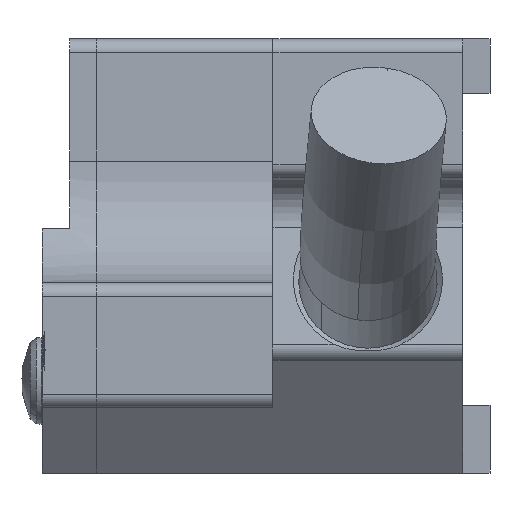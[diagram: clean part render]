
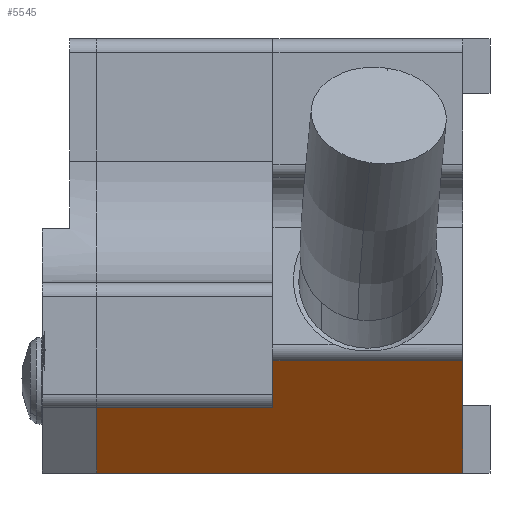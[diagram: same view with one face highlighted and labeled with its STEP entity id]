
A CAD part, left-side view. The second image highlights one B-rep face of the part: STEP entity #5545.
In plain terms, the highlighted planar face has unit normal (-0.342, 0, -0.94).
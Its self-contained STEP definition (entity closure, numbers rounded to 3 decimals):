
#685 = ORIENTED_EDGE ( 'NONE', *, *, #4542, .T. ) ;
#809 = LINE ( 'NONE', #8031, #8059 ) ;
#826 = CARTESIAN_POINT ( 'NONE',  ( -13.171, 7., 1.928 ) ) ;
#895 = VECTOR ( 'NONE', #1918, 1000. ) ;
#1005 = DIRECTION ( 'NONE',  ( 0., 1., 0. ) ) ;
#1209 = DIRECTION ( 'NONE',  ( 0.94, 0., -0.342 ) ) ;
#1268 = LINE ( 'NONE', #4564, #7045 ) ;
#1306 = EDGE_CURVE ( 'NONE', #2952, #4324, #5139, .T. ) ;
#1396 = DIRECTION ( 'NONE',  ( -0.94, 0., 0.342 ) ) ;
#1630 = LINE ( 'NONE', #7440, #3230 ) ;
#1813 = CARTESIAN_POINT ( 'NONE',  ( -13.171, 13.5, 1.928 ) ) ;
#1918 = DIRECTION ( 'NONE',  ( 0., 1., 0. ) ) ;
#2157 = EDGE_CURVE ( 'NONE', #5694, #8547, #809, .T. ) ;
#2202 = CARTESIAN_POINT ( 'NONE',  ( -17.858, 7., 3.634 ) ) ;
#2243 = AXIS2_PLACEMENT_3D ( 'NONE', #8405, #7103, #1209 ) ;
#2473 = EDGE_LOOP ( 'NONE', ( #4356, #2907, #5236, #685, #3915, #3470 ) ) ;
#2907 = ORIENTED_EDGE ( 'NONE', *, *, #1306, .T. ) ;
#2916 = LINE ( 'NONE', #7539, #4327 ) ;
#2952 = VERTEX_POINT ( 'NONE', #3848 ) ;
#2974 = VERTEX_POINT ( 'NONE', #826 ) ;
#3031 = CARTESIAN_POINT ( 'NONE',  ( -6.5, 13.5, -0.5 ) ) ;
#3164 = FACE_OUTER_BOUND ( 'NONE', #2473, .T. ) ;
#3230 = VECTOR ( 'NONE', #1005, 1000. ) ;
#3251 = EDGE_CURVE ( 'NONE', #5694, #2952, #2916, .T. ) ;
#3470 = ORIENTED_EDGE ( 'NONE', *, *, #2157, .F. ) ;
#3848 = CARTESIAN_POINT ( 'NONE',  ( -17.858, 0., 3.634 ) ) ;
#3915 = ORIENTED_EDGE ( 'NONE', *, *, #6006, .T. ) ;
#4324 = VERTEX_POINT ( 'NONE', #2202 ) ;
#4327 = VECTOR ( 'NONE', #6090, 1000. ) ;
#4356 = ORIENTED_EDGE ( 'NONE', *, *, #3251, .T. ) ;
#4542 = EDGE_CURVE ( 'NONE', #2974, #4849, #1630, .T. ) ;
#4564 = CARTESIAN_POINT ( 'NONE',  ( -18.5, 7., 3.868 ) ) ;
#4695 = EDGE_CURVE ( 'NONE', #2974, #4324, #1268, .T. ) ;
#4796 = DIRECTION ( 'NONE',  ( 0.94, 0., -0.342 ) ) ;
#4849 = VERTEX_POINT ( 'NONE', #1813 ) ;
#5139 = LINE ( 'NONE', #7769, #895 ) ;
#5236 = ORIENTED_EDGE ( 'NONE', *, *, #4695, .F. ) ;
#5545 = ADVANCED_FACE ( 'NONE', ( #3164 ), #5833, .F. ) ;
#5694 = VERTEX_POINT ( 'NONE', #5761 ) ;
#5704 = VECTOR ( 'NONE', #4796, 1000. ) ;
#5761 = CARTESIAN_POINT ( 'NONE',  ( -6.5, 0., -0.5 ) ) ;
#5833 = PLANE ( 'NONE',  #2243 ) ;
#6006 = EDGE_CURVE ( 'NONE', #4849, #8547, #7265, .T. ) ;
#6090 = DIRECTION ( 'NONE',  ( -0.94, 0., 0.342 ) ) ;
#6801 = CARTESIAN_POINT ( 'NONE',  ( -18.5, 13.5, 3.868 ) ) ;
#7045 = VECTOR ( 'NONE', #1396, 1000. ) ;
#7103 = DIRECTION ( 'NONE',  ( 0.342, 0., 0.94 ) ) ;
#7265 = LINE ( 'NONE', #6801, #5704 ) ;
#7440 = CARTESIAN_POINT ( 'NONE',  ( -13.171, -8.5, 1.928 ) ) ;
#7539 = CARTESIAN_POINT ( 'NONE',  ( 15.736, 0., -8.593 ) ) ;
#7769 = CARTESIAN_POINT ( 'NONE',  ( -17.858, -8.5, 3.634 ) ) ;
#7989 = DIRECTION ( 'NONE',  ( 0., 1., 0. ) ) ;
#8031 = CARTESIAN_POINT ( 'NONE',  ( -6.5, -8.5, -0.5 ) ) ;
#8059 = VECTOR ( 'NONE', #7989, 1000. ) ;
#8405 = CARTESIAN_POINT ( 'NONE',  ( -18.5, -8.5, 3.868 ) ) ;
#8547 = VERTEX_POINT ( 'NONE', #3031 ) ;
